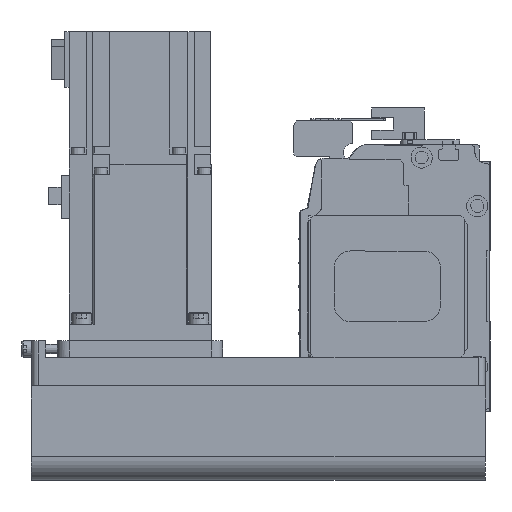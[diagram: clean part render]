
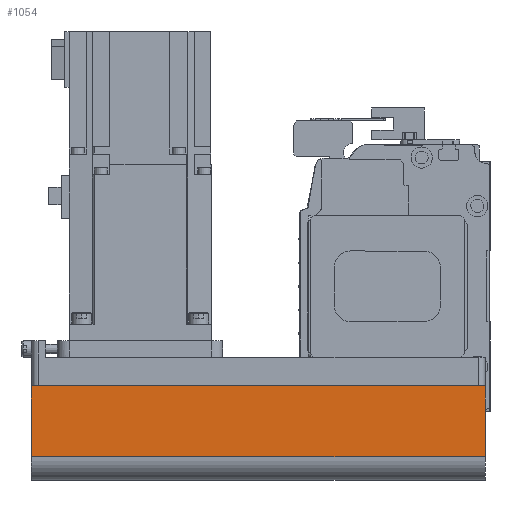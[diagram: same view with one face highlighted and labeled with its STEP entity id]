
A CAD part, left-side view. The second image highlights one B-rep face of the part: STEP entity #1054.
In plain terms, the highlighted planar face has unit normal (-1, 0, 0) as drawn and (0, -1, 0) by its records, which use the part's own axes.
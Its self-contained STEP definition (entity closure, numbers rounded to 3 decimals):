
#1054 = ADVANCED_FACE( '', ( #2703 ), #2704, .T. );
#2703 = FACE_OUTER_BOUND( '', #5191, .T. );
#2704 = PLANE( '', #5192 );
#5191 = EDGE_LOOP( '', ( #8051, #8052, #8053, #8054 ) );
#5192 = AXIS2_PLACEMENT_3D( '', #8055, #8056, #8057 );
#8051 = ORIENTED_EDGE( '', *, *, #14356, .F. );
#8052 = ORIENTED_EDGE( '', *, *, #13975, .F. );
#8053 = ORIENTED_EDGE( '', *, *, #14357, .T. );
#8054 = ORIENTED_EDGE( '', *, *, #14358, .T. );
#8055 = CARTESIAN_POINT( '', ( -192., -40., -12.1 ) );
#8056 = DIRECTION( '', ( 0., -1., 0. ) );
#8057 = DIRECTION( '', ( 0., 0., -1. ) );
#13975 = EDGE_CURVE( '', #16499, #16501, #16502, .T. );
#14356 = EDGE_CURVE( '', #16501, #17173, #17174, .T. );
#14357 = EDGE_CURVE( '', #16499, #17175, #17176, .T. );
#14358 = EDGE_CURVE( '', #17175, #17173, #17177, .T. );
#16499 = VERTEX_POINT( '', #20240 );
#16501 = VERTEX_POINT( '', #20243 );
#16502 = LINE( '', #20244, #20245 );
#17173 = VERTEX_POINT( '', #21137 );
#17174 = LINE( '', #21138, #21139 );
#17175 = VERTEX_POINT( '', #21140 );
#17176 = LINE( '', #21141, #21142 );
#17177 = LINE( '', #21143, #21144 );
#20240 = CARTESIAN_POINT( '', ( -192., -40., -12.1 ) );
#20243 = CARTESIAN_POINT( '', ( 0., -40., -12.1 ) );
#20244 = CARTESIAN_POINT( '', ( -192., -40., -12.1 ) );
#20245 = VECTOR( '', #25205, 1000. );
#21137 = CARTESIAN_POINT( '', ( 0., -40., -42. ) );
#21138 = CARTESIAN_POINT( '', ( 0., -40., -12.1 ) );
#21139 = VECTOR( '', #25685, 1000. );
#21140 = CARTESIAN_POINT( '', ( -192., -40., -42. ) );
#21141 = CARTESIAN_POINT( '', ( -192., -40., -12.1 ) );
#21142 = VECTOR( '', #25686, 1000. );
#21143 = CARTESIAN_POINT( '', ( -192., -40., -42. ) );
#21144 = VECTOR( '', #25687, 1000. );
#25205 = DIRECTION( '', ( 1., 0., 0. ) );
#25685 = DIRECTION( '', ( 0., 0., -1. ) );
#25686 = DIRECTION( '', ( 0., 0., -1. ) );
#25687 = DIRECTION( '', ( 1., 0., 0. ) );
